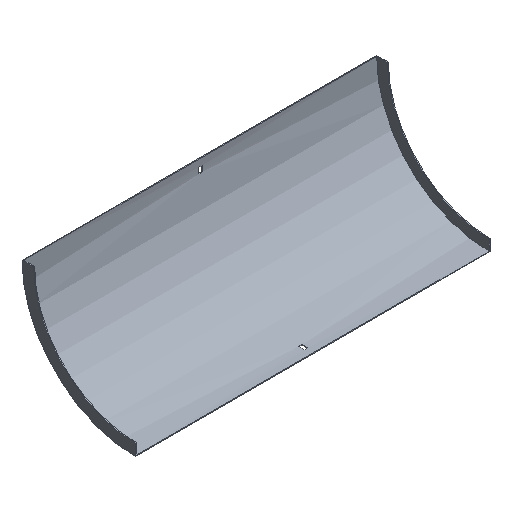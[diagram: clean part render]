
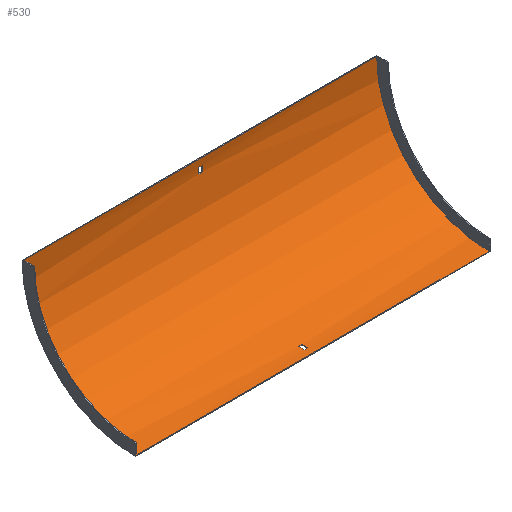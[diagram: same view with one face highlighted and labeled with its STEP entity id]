
A CAD part, isometric view. The second image highlights one B-rep face of the part: STEP entity #530.
In plain terms, the highlighted cylindrical face has radius 192.5 mm (diameter 385 mm), a partial arc.
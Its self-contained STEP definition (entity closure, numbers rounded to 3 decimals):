
#21 = ORIENTED_EDGE ( 'NONE', *, *, #574, .F. ) ;
#31 = AXIS2_PLACEMENT_3D ( 'NONE', #283, #383, #572 ) ;
#32 = CARTESIAN_POINT ( 'NONE',  ( -302., -194., 0. ) ) ;
#33 = ORIENTED_EDGE ( 'NONE', *, *, #205, .T. ) ;
#37 = ORIENTED_EDGE ( 'NONE', *, *, #380, .T. ) ;
#38 = LINE ( 'NONE', #130, #431 ) ;
#41 = CARTESIAN_POINT ( 'NONE',  ( 302., -194., -192.5 ) ) ;
#49 = CARTESIAN_POINT ( 'NONE',  ( 3.25, -2.649, -21. ) ) ;
#53 = AXIS2_PLACEMENT_3D ( 'NONE', #169, #316, #221 ) ;
#54 = VECTOR ( 'NONE', #495, 1000. ) ;
#57 = DIRECTION ( 'NONE',  ( -1., 0., 0. ) ) ;
#61 = CIRCLE ( 'NONE', #510, 192.5 ) ;
#72 = CIRCLE ( 'NONE', #121, 192.5 ) ;
#81 = CARTESIAN_POINT ( 'NONE',  ( -302., -1.5, 0. ) ) ;
#84 = DIRECTION ( 'NONE',  ( 0., 0., 1. ) ) ;
#86 = CARTESIAN_POINT ( 'NONE',  ( -3.25, -194., 0. ) ) ;
#89 = DIRECTION ( 'NONE',  ( 0., 0., 1. ) ) ;
#90 = VECTOR ( 'NONE', #109, 1000. ) ;
#92 = VERTEX_POINT ( 'NONE', #482 ) ;
#96 = DIRECTION ( 'NONE',  ( 0., 0., -1. ) ) ;
#102 = AXIS2_PLACEMENT_3D ( 'NONE', #372, #195, #96 ) ;
#103 = CYLINDRICAL_SURFACE ( 'NONE', #545, 192.5 ) ;
#107 = ORIENTED_EDGE ( 'NONE', *, *, #285, .F. ) ;
#109 = DIRECTION ( 'NONE',  ( -1., 0., 0. ) ) ;
#120 = VERTEX_POINT ( 'NONE', #298 ) ;
#121 = AXIS2_PLACEMENT_3D ( 'NONE', #260, #208, #395 ) ;
#130 = CARTESIAN_POINT ( 'NONE',  ( 303.5, -173., -191.351 ) ) ;
#132 = EDGE_LOOP ( 'NONE', ( #107, #425, #222, #33 ) ) ;
#138 = CARTESIAN_POINT ( 'NONE',  ( -302., -194., -192.5 ) ) ;
#141 = VECTOR ( 'NONE', #350, 1000. ) ;
#154 = CARTESIAN_POINT ( 'NONE',  ( -3.25, -1.874, -12. ) ) ;
#161 = ORIENTED_EDGE ( 'NONE', *, *, #408, .T. ) ;
#169 = CARTESIAN_POINT ( 'NONE',  ( 3.25, -194., 0. ) ) ;
#174 = CARTESIAN_POINT ( 'NONE',  ( -3.25, -2.649, -21. ) ) ;
#178 = EDGE_CURVE ( 'NONE', #92, #359, #72, .T. ) ;
#182 = CARTESIAN_POINT ( 'NONE',  ( -3.25, -182., -192.126 ) ) ;
#195 = DIRECTION ( 'NONE',  ( 1., 0., 0. ) ) ;
#196 = ORIENTED_EDGE ( 'NONE', *, *, #288, .F. ) ;
#201 = LINE ( 'NONE', #391, #90 ) ;
#203 = CARTESIAN_POINT ( 'NONE',  ( 302., -1.5, 0. ) ) ;
#205 = EDGE_CURVE ( 'NONE', #359, #583, #402, .T. ) ;
#208 = DIRECTION ( 'NONE',  ( 1., 0., 0. ) ) ;
#221 = DIRECTION ( 'NONE',  ( 0., 0., 1. ) ) ;
#222 = ORIENTED_EDGE ( 'NONE', *, *, #178, .T. ) ;
#236 = FACE_OUTER_BOUND ( 'NONE', #132, .T. ) ;
#243 = EDGE_CURVE ( 'NONE', #597, #461, #400, .T. ) ;
#246 = CARTESIAN_POINT ( 'NONE',  ( -3.25, -173., -191.351 ) ) ;
#248 = CIRCLE ( 'NONE', #53, 192.5 ) ;
#250 = EDGE_LOOP ( 'NONE', ( #161, #503, #37, #497 ) ) ;
#253 = VERTEX_POINT ( 'NONE', #182 ) ;
#257 = VECTOR ( 'NONE', #601, 1000. ) ;
#260 = CARTESIAN_POINT ( 'NONE',  ( 302., -194., 0. ) ) ;
#276 = CARTESIAN_POINT ( 'NONE',  ( 3.25, -1.874, -12. ) ) ;
#283 = CARTESIAN_POINT ( 'NONE',  ( -3.25, -194., 0. ) ) ;
#285 = EDGE_CURVE ( 'NONE', #491, #583, #61, .T. ) ;
#286 = CARTESIAN_POINT ( 'NONE',  ( 303.5, -194., 0. ) ) ;
#288 = EDGE_CURVE ( 'NONE', #540, #597, #501, .T. ) ;
#294 = VERTEX_POINT ( 'NONE', #276 ) ;
#295 = AXIS2_PLACEMENT_3D ( 'NONE', #86, #517, #89 ) ;
#298 = CARTESIAN_POINT ( 'NONE',  ( 3.25, -182., -192.126 ) ) ;
#303 = EDGE_CURVE ( 'NONE', #92, #491, #598, .T. ) ;
#314 = VECTOR ( 'NONE', #521, 1000. ) ;
#315 = DIRECTION ( 'NONE',  ( 1., 0., 0. ) ) ;
#316 = DIRECTION ( 'NONE',  ( -1., 0., 0. ) ) ;
#319 = ORIENTED_EDGE ( 'NONE', *, *, #399, .F. ) ;
#329 = CARTESIAN_POINT ( 'NONE',  ( 3.25, -173., -191.351 ) ) ;
#350 = DIRECTION ( 'NONE',  ( 1., 0., 0. ) ) ;
#359 = VERTEX_POINT ( 'NONE', #507 ) ;
#363 = EDGE_LOOP ( 'NONE', ( #196, #21, #319, #414 ) ) ;
#372 = CARTESIAN_POINT ( 'NONE',  ( 3.25, -194., 0. ) ) ;
#379 = DIRECTION ( 'NONE',  ( 0., 0., 1. ) ) ;
#380 = EDGE_CURVE ( 'NONE', #544, #512, #38, .T. ) ;
#383 = DIRECTION ( 'NONE',  ( 1., 0., 0. ) ) ;
#389 = CIRCLE ( 'NONE', #31, 192.5 ) ;
#391 = CARTESIAN_POINT ( 'NONE',  ( 303.5, -1.874, -12. ) ) ;
#395 = DIRECTION ( 'NONE',  ( 0., 0., 1. ) ) ;
#399 = EDGE_CURVE ( 'NONE', #461, #294, #585, .T. ) ;
#400 = LINE ( 'NONE', #587, #141 ) ;
#402 = LINE ( 'NONE', #203, #54 ) ;
#408 = EDGE_CURVE ( 'NONE', #120, #253, #575, .T. ) ;
#414 = ORIENTED_EDGE ( 'NONE', *, *, #243, .F. ) ;
#425 = ORIENTED_EDGE ( 'NONE', *, *, #303, .F. ) ;
#431 = VECTOR ( 'NONE', #315, 1000. ) ;
#435 = CARTESIAN_POINT ( 'NONE',  ( 303.5, -182., -192.126 ) ) ;
#461 = VERTEX_POINT ( 'NONE', #49 ) ;
#479 = FACE_BOUND ( 'NONE', #250, .T. ) ;
#482 = CARTESIAN_POINT ( 'NONE',  ( 302., -194., -192.5 ) ) ;
#483 = FACE_BOUND ( 'NONE', #363, .T. ) ;
#491 = VERTEX_POINT ( 'NONE', #138 ) ;
#495 = DIRECTION ( 'NONE',  ( -1., 0., 0. ) ) ;
#497 = ORIENTED_EDGE ( 'NONE', *, *, #591, .T. ) ;
#501 = CIRCLE ( 'NONE', #295, 192.5 ) ;
#502 = EDGE_CURVE ( 'NONE', #253, #544, #389, .T. ) ;
#503 = ORIENTED_EDGE ( 'NONE', *, *, #502, .T. ) ;
#507 = CARTESIAN_POINT ( 'NONE',  ( 302., -1.5, 0. ) ) ;
#510 = AXIS2_PLACEMENT_3D ( 'NONE', #32, #549, #84 ) ;
#512 = VERTEX_POINT ( 'NONE', #329 ) ;
#517 = DIRECTION ( 'NONE',  ( -1., 0., 0. ) ) ;
#521 = DIRECTION ( 'NONE',  ( -1., 0., 0. ) ) ;
#530 = ADVANCED_FACE ( 'NONE', ( #483, #236, #479 ), #103, .F. ) ;
#540 = VERTEX_POINT ( 'NONE', #154 ) ;
#544 = VERTEX_POINT ( 'NONE', #246 ) ;
#545 = AXIS2_PLACEMENT_3D ( 'NONE', #286, #57, #379 ) ;
#549 = DIRECTION ( 'NONE',  ( 1., 0., 0. ) ) ;
#572 = DIRECTION ( 'NONE',  ( 0., 0., -1. ) ) ;
#574 = EDGE_CURVE ( 'NONE', #294, #540, #201, .T. ) ;
#575 = LINE ( 'NONE', #435, #314 ) ;
#583 = VERTEX_POINT ( 'NONE', #81 ) ;
#585 = CIRCLE ( 'NONE', #102, 192.5 ) ;
#587 = CARTESIAN_POINT ( 'NONE',  ( 303.5, -2.649, -21. ) ) ;
#591 = EDGE_CURVE ( 'NONE', #512, #120, #248, .T. ) ;
#597 = VERTEX_POINT ( 'NONE', #174 ) ;
#598 = LINE ( 'NONE', #41, #257 ) ;
#601 = DIRECTION ( 'NONE',  ( -1., 0., 0. ) ) ;
